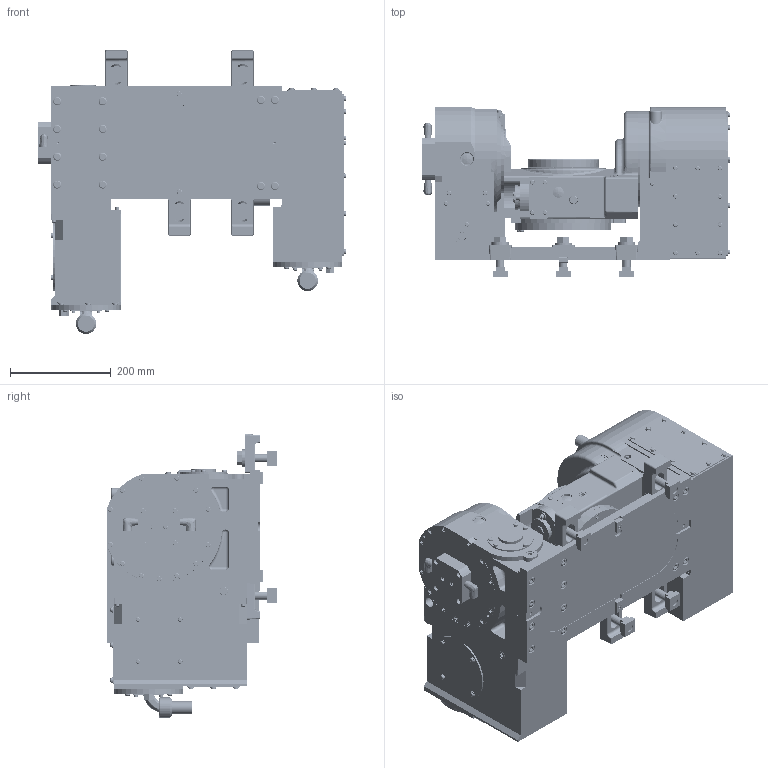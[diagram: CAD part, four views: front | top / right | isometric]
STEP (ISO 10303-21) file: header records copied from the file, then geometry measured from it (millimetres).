
FILE_DESCRIPTION (( 'STEP AP214' ), '1' );
FILE_NAME ('亂宖嵹梡亃TT140QuinteRJ晅.STEP', '2019-10-15T04:15:35', ( '' ), ( '' ), 'SwSTEP 2.0', 'SolidWorks 2017', '' );
FILE_SCHEMA (( 'AUTOMOTIVE_DESIGN' ));
Length unit declared in the file: millimetre
Products named in the file (30): ボデー(61E1132671)_回転モデル; BASE_TT140AVR; 働乕僽儖N29ZSZ2562; キタガワシール; SMC KQ2E08-02; コネクタプレート(61E4610931)TT140A5-02; 僇僶乕丂俹(61E4458433)MR250RAM01; モータケース(61E280985)旧61E270783; CLAMPING PARTS（61E424758）; モータケース(61E272758)旧61E252257; TABLE(61E3817261)TT140A00; アダプタ(61E381607); BODY(61E250444)TT140A00; ガイドブロック(61M4197783); アナプラグ 04; プレート(61E2503798)_標準; アナプラグ 03; BASE_RJ(61E250443)TT140A00; オイルゲージ 257; RJ34TT140(61E3831482); モータフランジ(61E250281)_回転モデル; グリスニップル A M6; カバー D(61E454414)_回転モデル; ササエ(61E250282)_回転モデル; カバー C(61E454413)_回転モデル; ベース(61E111298)_回転モデル; カバー B(61E454412)_回転モデル; シリンダ(61E381670)_回転モデル; 亂宖嵹梡亃TT140QuinteRJ晅; ベアリングプッシュプレート(61E381727)_回転モデル
Assembly tree (37 placements, depth 4):
  亂宖嵹梡亃TT140QuinteRJ晅
    BASE_TT140AVR
      BASE_RJ(61E250443)TT140A00
        ベース(61E111298)_回転モデル
        ササエ(61E250282)_回転モデル
        グリスニップル A M6
        RJ34TT140(61E3831482)
      プレート(61E2503798)_標準
      ガイドブロック(61M4197783)  x2
      アダプタ(61E381607)
      モータケース(61E272758)旧61E252257
      モータケース(61E280985)旧61E270783
      僇僶乕丂俹(61E4458433)MR250RAM01
      コネクタプレート(61E4610931)TT140A5-02  x2
      SMC KQ2E08-02  x2
      キタガワシール
      働乕僽儖N29ZSZ2562  x2
    BODY(61E250444)TT140A00
      ボデー(61E1132671)_回転モデル
      ベアリングプッシュプレート(61E381727)_回転モデル
      シリンダ(61E381670)_回転モデル
      カバー B(61E454412)_回転モデル
      カバー C(61E454413)_回転モデル
      カバー D(61E454414)_回転モデル
      モータフランジ(61E250281)_回転モデル
      オイルゲージ 257
      アナプラグ 03  x2
      アナプラグ 04
    TABLE(61E3817261)TT140A00
    CLAMPING PARTS（61E424758）  x4
Bounding box: 609.8 x 336 x 562.4 mm (x, y, z)
Volume: 39363341.8 mm3; surface area: 2295466.9 mm2
Topology: 38 solids, 39 shells, 5382 faces, 13141 edges, 8454 vertices
Faces by surface type: plane 3198, cylinder 1482, cone 417, torus 204, bspline 61, sphere 20
Entity records: 173319 total; most frequent: CARTESIAN_POINT 31592, DIRECTION 25340, ORIENTED_EDGE 24266, EDGE_CURVE 12133, VECTOR 8466, LINE 8466, AXIS2_PLACEMENT_3D 8437, VERTEX_POINT 7878
